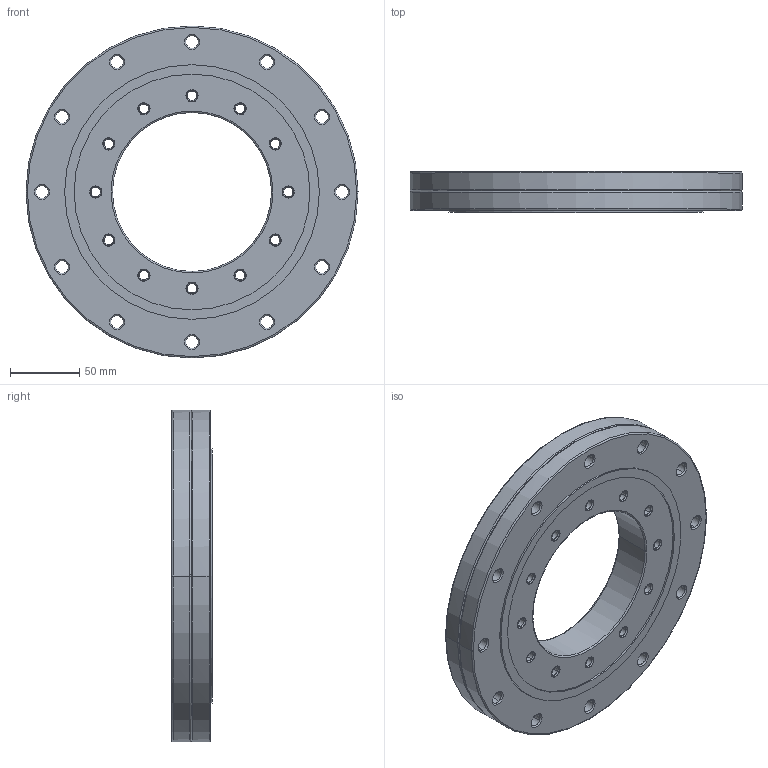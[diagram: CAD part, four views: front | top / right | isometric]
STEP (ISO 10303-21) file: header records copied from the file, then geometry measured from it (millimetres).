
FILE_DESCRIPTION(('no description'),'unknown implementation level');
FILE_NAME('CRBD11528A_48.stp',' ',('HIWIN GmbH'),('CADClick - KiM GmbH - www.kimweb.de'),'unknown preprocess','ACIS','unknown authorization');
FILE_SCHEMA(('automotive_design'));
Length unit declared in the file: millimetre
Products named in the file (29): CRBD11528A_1; CRBD11528A_2; CRBD11528A_3; CRBD11528A_4; CRBD11528A_5; CRBD11528A_6; CRBD11528A_7; CRBD11528A_8; CRBD11528A_9; CRBD11528A_10; CRBD11528A_11; CRBD11528A_12; CRBD11528A_13; CRBD11528A_14; CRBD11528A_15; CRBD11528A_16; CRBD11528A_17; CRBD11528A_18; CRBD11528A_19; CRBD11528A_20; CRBD11528A_21; CRBD11528A_22; CRBD11528A_23; CRBD11528A_24; CRBD11528A_25; CRBD11528A_26; CRBD11528A_27; CRBD11528A_28; CRBD11528A
Bounding box: 240 x 29.3 x 240 mm (x, y, z)
Volume: 834900.5 mm3; surface area: 199969.9 mm2
Topology: 5 solids, 29 shells, 450 faces, 1152 edges, 748 vertices
Faces by surface type: cone 264, cylinder 140, torus 24, plane 22
Entity records: 26905 total; most frequent: DIRECTION 2834, CARTESIAN_POINT 2379, ORIENTED_EDGE 2208, STYLED_ITEM 2187, PRESENTATION_STYLE_ASSIGNMENT 2187, COLOUR_RGB 2187, AXIS2_PLACEMENT_3D 1203, EDGE_CURVE 1152
